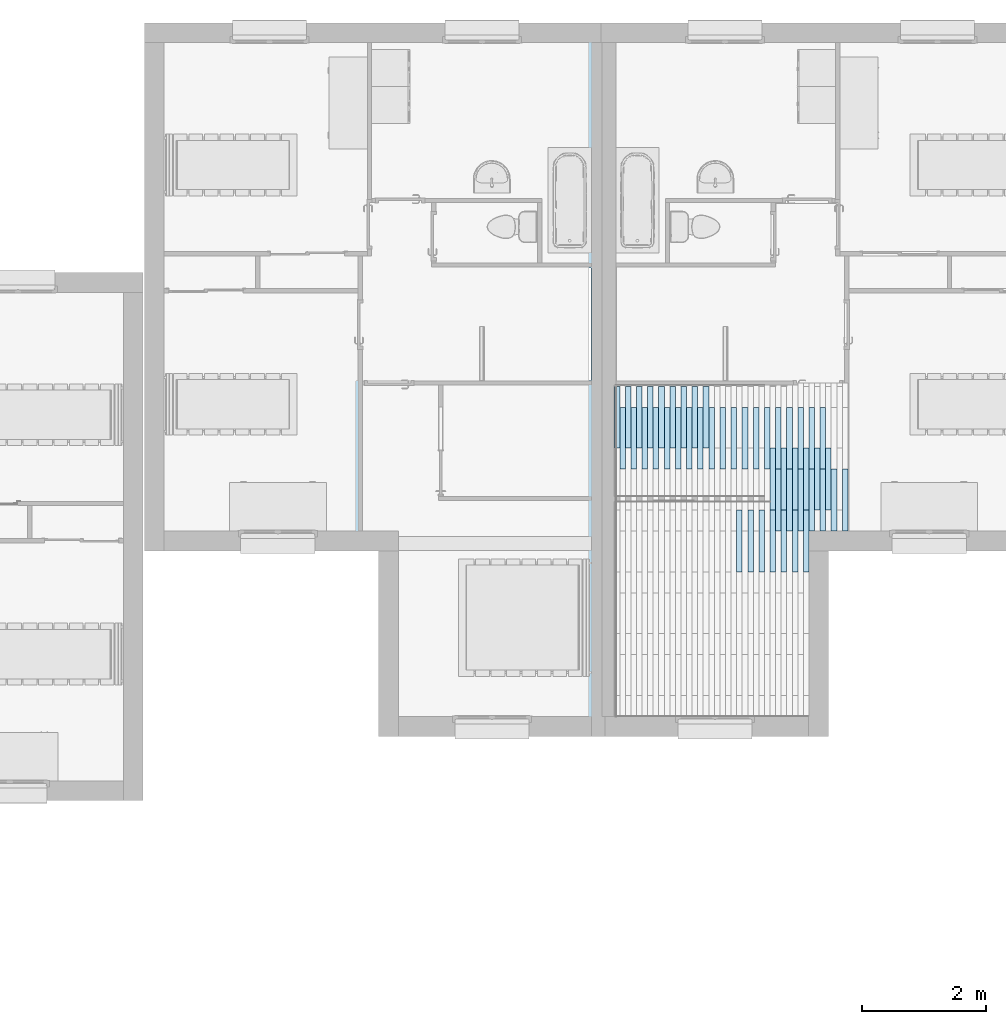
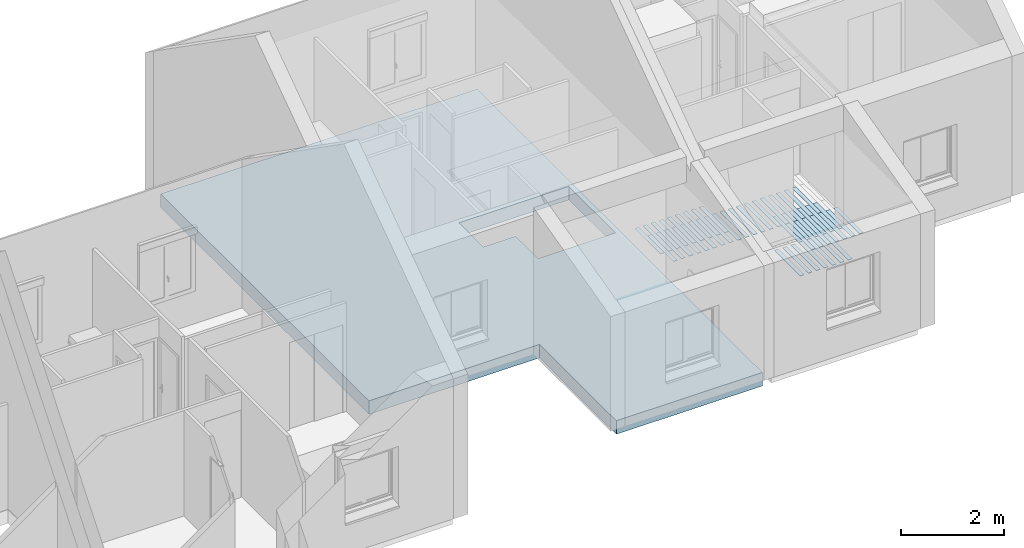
# One storey, part 3 of 50: 49 slabs, 1 opening.
"""IFC2X3 building model written with IfcOpenShell, lengths in metres."""

from ifc_helpers import new_model, entity, si_unit, converted_unit, derived_unit, direction, frame, frame_2d, origin, place, context, subcontext, project, spatial, polyline, rectangle, outline, extrude, material, layer, layer_set, layer_usage, element, save


model = new_model("IFC2X3")

# Units and contexts
model_context = context("Model", 3, precision=1e-05, world=origin(), true_north=direction((6.12303176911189e-17, 1.0)))
context_of_model = context(None, 3, precision=1e-05, world=origin(), true_north=direction((6.12303176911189e-17, 1.0)))
body_context = subcontext(model_context, "Body", "Model", "MODEL_VIEW")
ifc_project = project(units=[si_unit("LENGTHUNIT", "METRE"), si_unit("AREAUNIT", "SQUARE_METRE"), si_unit("VOLUMEUNIT", "CUBIC_METRE"), converted_unit("PLANEANGLEUNIT", "DEGREE", entity("IfcRatioMeasure", 0.0174532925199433), si_unit("PLANEANGLEUNIT", "RADIAN"), dimensions=[0, 0, 0, 0, 0, 0, 0]), si_unit("MASSUNIT", "GRAM", prefix="KILO"), si_unit("TIMEUNIT", "SECOND"), si_unit("FREQUENCYUNIT", "HERTZ"), si_unit("THERMODYNAMICTEMPERATUREUNIT", "DEGREE_CELSIUS"), derived_unit("THERMALTRANSMITTANCEUNIT", [(si_unit("MASSUNIT", "GRAM", prefix="KILO"), 1), (si_unit("THERMODYNAMICTEMPERATUREUNIT", "KELVIN"), -1), (si_unit("TIMEUNIT", "SECOND"), -3)]), derived_unit("VOLUMETRICFLOWRATEUNIT", [(si_unit("LENGTHUNIT", "METRE"), 3), (si_unit("TIMEUNIT", "SECOND"), -1)]), si_unit("ELECTRICCURRENTUNIT", "AMPERE"), si_unit("ELECTRICVOLTAGEUNIT", "VOLT"), si_unit("POWERUNIT", "WATT"), si_unit("FORCEUNIT", "NEWTON", prefix="KILO"), si_unit("ILLUMINANCEUNIT", "LUX"), si_unit("LUMINOUSFLUXUNIT", "LUMEN"), si_unit("LUMINOUSINTENSITYUNIT", "CANDELA"), si_unit("PRESSUREUNIT", "PASCAL")], contexts=[model_context, context_of_model])

# Site, building, storey
site_placement = place(None, origin())
site = spatial("IfcSite", under=ifc_project, at=site_placement, Name="Surface", CompositionType="ELEMENT")
building_placement = place(site_placement, origin())
building = spatial("IfcBuilding", under=site, at=building_placement, CompositionType="ELEMENT")
storey_placement = place(building_placement, frame((0.0, 0.0, 2.82)))
storey = spatial("IfcBuildingStorey", under=building, at=storey_placement, Name="ETAGE", CompositionType="ELEMENT", Elevation=2.82)

# Slab, opening
ifc_material_1 = material(Name="Béton")
ifc_layer_1 = layer(ifc_material_1, 0.2)
ifc_material_2 = material(Name="Isolant")
ifc_layer_2 = layer(ifc_material_2, 0.1)
ifc_material_3 = material(Name="Plastique - Blanc")
ifc_layer_3 = layer(ifc_material_3, 0.02)
ifc_layer_set_1 = layer_set([ifc_layer_1, ifc_layer_2, ifc_layer_3], Name="Sol:Dalle Béton - 20 cm  + FAUX PLAFOND")
ifc_layer_usage_1 = layer_usage(ifc_layer_set_1, "AXIS3", "POSITIVE", 0.0)
slab_1_placement = place(storey_placement, frame((76.5227560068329, 81.1575239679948, -0.3)))
slab_1 = element("IfcSlab", 1, at=slab_1_placement, inside=storey, material=ifc_layer_usage_1, Name="Sol:Dalle Béton - 20 cm  + FAUX PLAFOND", ObjectType="Sol:Dalle Béton - 20 cm  + FAUX PLAFOND", PredefinedType="FLOOR", context=body_context, shape_type="SweptSolid", body=[
    extrude(outline(polyline([(3.55413147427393, 5.545), (-3.55413147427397, 5.545), (-3.55413147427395, -2.55499999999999), (0.274131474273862, -2.55499999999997), (0.274131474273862, -5.54499999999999), (3.55413147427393, -5.545), (3.55413147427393, 5.545)])), frame((3.55413147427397, 5.545, 0.32)), (0.0, 0.0, -1.0), 0.32),
])
opening_placement = place(storey_placement, frame((76.5227560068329, 81.1575239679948, -0.3)))
element("IfcOpeningElement", 2, at=opening_placement, cuts=slab_1, ObjectType="Opening", context=body_context, shape_type="SweptSolid", body=[
    extrude(outline(polyline([(-3.44496571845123, 1.7966805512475), (-3.44496571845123, -0.0199999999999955), (-1.70746571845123, -0.0199999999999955), (-1.70746571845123, 0.852480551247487), (-0.977465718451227, 0.852480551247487), (-0.977465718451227, 1.7966805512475), (-3.44496571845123, 1.7966805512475)])), frame((3.55413147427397, 5.545, 0.32), z_axis=(0.0, 0.0, -1.0), x_axis=(-1.0, 0.0, 0.0)), (0.0, 0.0, 1.0), 0.32),
])

# Slabs
ifc_material_4 = material(Name="PARQUET BAMBOU")
ifc_layer_4 = layer(ifc_material_4, 0.01)
ifc_layer_set_2 = layer_set([ifc_layer_4], Name="Sol:LAME DE BAMBOU")
ifc_layer_usage_2 = layer_usage(ifc_layer_set_2, "AXIS3", "POSITIVE", 0.0)
slab_2_placement = place(storey_placement, origin())
element("IfcSlab", 3, at=slab_2_placement, inside=storey, material=ifc_layer_usage_2, Name="Sol:LAME DE BAMBOU", ObjectType="Sol:LAME DE BAMBOU", PredefinedType="FLOOR", context=body_context, shape_type="SweptSolid", body=[
    extrude(rectangle(XDim=0.999999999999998, YDim=0.0899999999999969, at=frame_2d((8.68749516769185e-15, 8.66320903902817e-15), x_axis=(1.0, 0.0))), frame((85.926089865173, 84.0875239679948, 0.05), z_axis=(0.0, 0.0, -1.0), x_axis=(0.0, 1.0, 0.0)), (0.0, 0.0, 1.0), 0.00999999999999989),
])
ifc_layer_usage_3 = layer_usage(ifc_layer_set_2, "AXIS3", "POSITIVE", 0.0)
slab_3_placement = place(storey_placement, origin())
element("IfcSlab", 4, at=slab_3_placement, inside=storey, material=ifc_layer_usage_3, Name="Sol:LAME DE BAMBOU", ObjectType="Sol:LAME DE BAMBOU", PredefinedType="FLOOR", context=body_context, shape_type="SweptSolid", body=[
    extrude(rectangle(XDim=0.999999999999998, YDim=0.0899999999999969, at=frame_2d((8.68749516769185e-15, 8.66320903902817e-15), x_axis=(1.0, 0.0))), frame((86.106089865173, 84.0875239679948, 0.05), z_axis=(0.0, 0.0, -1.0), x_axis=(0.0, 1.0, 0.0)), (0.0, 0.0, 1.0), 0.00999999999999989),
])
ifc_layer_usage_4 = layer_usage(ifc_layer_set_2, "AXIS3", "POSITIVE", 0.0)
slab_4_placement = place(storey_placement, origin())
element("IfcSlab", 5, at=slab_4_placement, inside=storey, material=ifc_layer_usage_4, Name="Sol:LAME DE BAMBOU", ObjectType="Sol:LAME DE BAMBOU", PredefinedType="FLOOR", context=body_context, shape_type="SweptSolid", body=[
    extrude(rectangle(XDim=0.999999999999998, YDim=0.0899999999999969, at=frame_2d((8.68749516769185e-15, 8.66320903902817e-15), x_axis=(1.0, 0.0))), frame((86.286089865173, 84.0875239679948, 0.05), z_axis=(0.0, 0.0, -1.0), x_axis=(0.0, 1.0, 0.0)), (0.0, 0.0, 1.0), 0.00999999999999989),
])
ifc_layer_usage_5 = layer_usage(ifc_layer_set_2, "AXIS3", "POSITIVE", 0.0)
slab_5_placement = place(storey_placement, origin())
element("IfcSlab", 6, at=slab_5_placement, inside=storey, material=ifc_layer_usage_5, Name="Sol:LAME DE BAMBOU", ObjectType="Sol:LAME DE BAMBOU", PredefinedType="FLOOR", context=body_context, shape_type="SweptSolid", body=[
    extrude(rectangle(XDim=0.999999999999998, YDim=0.0899999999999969, at=frame_2d((8.68749516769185e-15, 8.66320903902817e-15), x_axis=(1.0, 0.0))), frame((86.466089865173, 84.0875239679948, 0.05), z_axis=(0.0, 0.0, -1.0), x_axis=(0.0, 1.0, 0.0)), (0.0, 0.0, 1.0), 0.00999999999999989),
])
ifc_layer_usage_6 = layer_usage(ifc_layer_set_2, "AXIS3", "POSITIVE", 0.0)
slab_6_placement = place(storey_placement, origin())
element("IfcSlab", 7, at=slab_6_placement, inside=storey, material=ifc_layer_usage_6, Name="Sol:LAME DE BAMBOU", ObjectType="Sol:LAME DE BAMBOU", PredefinedType="FLOOR", context=body_context, shape_type="SweptSolid", body=[
    extrude(rectangle(XDim=0.999999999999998, YDim=0.0899999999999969, at=frame_2d((8.68749516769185e-15, 8.66320903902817e-15), x_axis=(1.0, 0.0))), frame((86.646089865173, 84.0875239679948, 0.05), z_axis=(0.0, 0.0, -1.0), x_axis=(0.0, 1.0, 0.0)), (0.0, 0.0, 1.0), 0.00999999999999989),
])
ifc_layer_usage_7 = layer_usage(ifc_layer_set_2, "AXIS3", "POSITIVE", 0.0)
slab_7_placement = place(storey_placement, origin())
element("IfcSlab", 8, at=slab_7_placement, inside=storey, material=ifc_layer_usage_7, Name="Sol:LAME DE BAMBOU", ObjectType="Sol:LAME DE BAMBOU", PredefinedType="FLOOR", context=body_context, shape_type="SweptSolid", body=[
    extrude(rectangle(XDim=0.999999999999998, YDim=0.0899999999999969, at=frame_2d((8.68749516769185e-15, 8.66320903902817e-15), x_axis=(1.0, 0.0))), frame((86.826089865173, 84.0875239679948, 0.05), z_axis=(0.0, 0.0, -1.0), x_axis=(0.0, 1.0, 0.0)), (0.0, 0.0, 1.0), 0.00999999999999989),
])
ifc_layer_usage_8 = layer_usage(ifc_layer_set_2, "AXIS3", "POSITIVE", 0.0)
slab_8_placement = place(storey_placement, origin())
element("IfcSlab", 9, at=slab_8_placement, inside=storey, material=ifc_layer_usage_8, Name="Sol:LAME DE BAMBOU", ObjectType="Sol:LAME DE BAMBOU", PredefinedType="FLOOR", context=body_context, shape_type="SweptSolid", body=[
    extrude(rectangle(XDim=0.999999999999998, YDim=0.0899999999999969, at=frame_2d((-8.68749516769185e-15, 8.66320903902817e-15), x_axis=(1.0, 0.0))), frame((86.466089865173, 85.0875239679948, 0.05), z_axis=(0.0, 0.0, -1.0), x_axis=(0.0, 1.0, 0.0)), (0.0, 0.0, 1.0), 0.00999999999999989),
])
ifc_layer_usage_9 = layer_usage(ifc_layer_set_2, "AXIS3", "POSITIVE", 0.0)
slab_9_placement = place(storey_placement, origin())
element("IfcSlab", 10, at=slab_9_placement, inside=storey, material=ifc_layer_usage_9, Name="Sol:LAME DE BAMBOU", ObjectType="Sol:LAME DE BAMBOU", PredefinedType="FLOOR", context=body_context, shape_type="SweptSolid", body=[
    extrude(rectangle(XDim=0.999999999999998, YDim=0.0899999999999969, at=frame_2d((-8.68749516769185e-15, 8.66320903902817e-15), x_axis=(1.0, 0.0))), frame((86.556089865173, 84.7475239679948, 0.05), z_axis=(0.0, 0.0, -1.0), x_axis=(0.0, 1.0, 0.0)), (0.0, 0.0, 1.0), 0.00999999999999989),
])
ifc_layer_usage_10 = layer_usage(ifc_layer_set_2, "AXIS3", "POSITIVE", 0.0)
slab_10_placement = place(storey_placement, origin())
element("IfcSlab", 11, at=slab_10_placement, inside=storey, material=ifc_layer_usage_10, Name="Sol:LAME DE BAMBOU", ObjectType="Sol:LAME DE BAMBOU", PredefinedType="FLOOR", context=body_context, shape_type="SweptSolid", body=[
    extrude(rectangle(XDim=0.999999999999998, YDim=0.0899999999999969, at=frame_2d((8.68749516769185e-15, 8.66320903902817e-15), x_axis=(1.0, 0.0))), frame((86.556089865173, 85.7475239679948, 0.05), z_axis=(0.0, 0.0, -1.0), x_axis=(0.0, 1.0, 0.0)), (0.0, 0.0, 1.0), 0.00999999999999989),
])
ifc_layer_usage_11 = layer_usage(ifc_layer_set_2, "AXIS3", "POSITIVE", 0.0)
slab_11_placement = place(storey_placement, origin())
element("IfcSlab", 12, at=slab_11_placement, inside=storey, material=ifc_layer_usage_11, Name="Sol:LAME DE BAMBOU", ObjectType="Sol:LAME DE BAMBOU", PredefinedType="FLOOR", context=body_context, shape_type="SweptSolid", body=[
    extrude(rectangle(XDim=0.999999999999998, YDim=0.0899999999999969, at=frame_2d((-8.68749516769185e-15, 8.66320903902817e-15), x_axis=(1.0, 0.0))), frame((86.916089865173, 84.7475239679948, 0.05), z_axis=(0.0, 0.0, -1.0), x_axis=(0.0, 1.0, 0.0)), (0.0, 0.0, 1.0), 0.00999999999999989),
])
ifc_layer_usage_12 = layer_usage(ifc_layer_set_2, "AXIS3", "POSITIVE", 0.0)
slab_12_placement = place(storey_placement, origin())
element("IfcSlab", 13, at=slab_12_placement, inside=storey, material=ifc_layer_usage_12, Name="Sol:LAME DE BAMBOU", ObjectType="Sol:LAME DE BAMBOU", PredefinedType="FLOOR", context=body_context, shape_type="SweptSolid", body=[
    extrude(rectangle(XDim=0.999999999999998, YDim=0.0899999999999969, at=frame_2d((8.68749516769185e-15, 8.66320903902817e-15), x_axis=(1.0, 0.0))), frame((86.916089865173, 85.7475239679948, 0.05), z_axis=(0.0, 0.0, -1.0), x_axis=(0.0, 1.0, 0.0)), (0.0, 0.0, 1.0), 0.00999999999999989),
])
ifc_layer_usage_13 = layer_usage(ifc_layer_set_2, "AXIS3", "POSITIVE", 0.0)
slab_13_placement = place(storey_placement, origin())
element("IfcSlab", 14, at=slab_13_placement, inside=storey, material=ifc_layer_usage_13, Name="Sol:LAME DE BAMBOU", ObjectType="Sol:LAME DE BAMBOU", PredefinedType="FLOOR", context=body_context, shape_type="SweptSolid", body=[
    extrude(rectangle(XDim=0.999999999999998, YDim=0.0899999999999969, at=frame_2d((-8.68749516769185e-15, -8.66320903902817e-15), x_axis=(1.0, 0.0))), frame((86.736089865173, 84.7475239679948, 0.05), z_axis=(0.0, 0.0, -1.0), x_axis=(0.0, 1.0, 0.0)), (0.0, 0.0, 1.0), 0.00999999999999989),
])
ifc_layer_usage_14 = layer_usage(ifc_layer_set_2, "AXIS3", "POSITIVE", 0.0)
slab_14_placement = place(storey_placement, origin())
element("IfcSlab", 15, at=slab_14_placement, inside=storey, material=ifc_layer_usage_14, Name="Sol:LAME DE BAMBOU", ObjectType="Sol:LAME DE BAMBOU", PredefinedType="FLOOR", context=body_context, shape_type="SweptSolid", body=[
    extrude(rectangle(XDim=0.999999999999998, YDim=0.0899999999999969, at=frame_2d((8.68749516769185e-15, -8.66320903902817e-15), x_axis=(1.0, 0.0))), frame((86.736089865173, 85.7475239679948, 0.05), z_axis=(0.0, 0.0, -1.0), x_axis=(0.0, 1.0, 0.0)), (0.0, 0.0, 1.0), 0.00999999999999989),
])
ifc_layer_usage_15 = layer_usage(ifc_layer_set_2, "AXIS3", "POSITIVE", 0.0)
slab_15_placement = place(storey_placement, origin())
element("IfcSlab", 16, at=slab_15_placement, inside=storey, material=ifc_layer_usage_15, Name="Sol:LAME DE BAMBOU", ObjectType="Sol:LAME DE BAMBOU", PredefinedType="FLOOR", context=body_context, shape_type="SweptSolid", body=[
    extrude(rectangle(XDim=0.999999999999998, YDim=0.0899999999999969, at=frame_2d((-8.68749516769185e-15, 8.66320903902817e-15), x_axis=(1.0, 0.0))), frame((86.646089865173, 85.0875239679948, 0.05), z_axis=(0.0, 0.0, -1.0), x_axis=(0.0, 1.0, 0.0)), (0.0, 0.0, 1.0), 0.00999999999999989),
])
ifc_layer_usage_16 = layer_usage(ifc_layer_set_2, "AXIS3", "POSITIVE", 0.0)
slab_16_placement = place(storey_placement, origin())
element("IfcSlab", 17, at=slab_16_placement, inside=storey, material=ifc_layer_usage_16, Name="Sol:LAME DE BAMBOU", ObjectType="Sol:LAME DE BAMBOU", PredefinedType="FLOOR", context=body_context, shape_type="SweptSolid", body=[
    extrude(rectangle(XDim=0.999999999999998, YDim=0.0899999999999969, at=frame_2d((-8.68749516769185e-15, 8.66320903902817e-15), x_axis=(1.0, 0.0))), frame((86.826089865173, 85.0875239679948, 0.05), z_axis=(0.0, 0.0, -1.0), x_axis=(0.0, 1.0, 0.0)), (0.0, 0.0, 1.0), 0.00999999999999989),
])
ifc_layer_usage_17 = layer_usage(ifc_layer_set_2, "AXIS3", "POSITIVE", 0.0)
slab_17_placement = place(storey_placement, origin())
element("IfcSlab", 18, at=slab_17_placement, inside=storey, material=ifc_layer_usage_17, Name="Sol:LAME DE BAMBOU", ObjectType="Sol:LAME DE BAMBOU", PredefinedType="FLOOR", context=body_context, shape_type="SweptSolid", body=[
    extrude(rectangle(XDim=0.999999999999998, YDim=0.0899999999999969, at=frame_2d((8.68749516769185e-15, 8.66320903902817e-15), x_axis=(1.0, 0.0))), frame((87.006089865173, 84.0875239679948, 0.05), z_axis=(0.0, 0.0, -1.0), x_axis=(0.0, 1.0, 0.0)), (0.0, 0.0, 1.0), 0.00999999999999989),
])
ifc_layer_usage_18 = layer_usage(ifc_layer_set_2, "AXIS3", "POSITIVE", 0.0)
slab_18_placement = place(storey_placement, origin())
element("IfcSlab", 19, at=slab_18_placement, inside=storey, material=ifc_layer_usage_18, Name="Sol:LAME DE BAMBOU", ObjectType="Sol:LAME DE BAMBOU", PredefinedType="FLOOR", context=body_context, shape_type="SweptSolid", body=[
    extrude(rectangle(XDim=0.999999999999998, YDim=0.0899999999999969, at=frame_2d((-8.68749516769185e-15, 8.66320903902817e-15), x_axis=(1.0, 0.0))), frame((87.006089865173, 85.0875239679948, 0.05), z_axis=(0.0, 0.0, -1.0), x_axis=(0.0, 1.0, 0.0)), (0.0, 0.0, 1.0), 0.00999999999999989),
])
ifc_layer_usage_19 = layer_usage(ifc_layer_set_2, "AXIS3", "POSITIVE", 0.0)
slab_19_placement = place(storey_placement, origin())
element("IfcSlab", 20, at=slab_19_placement, inside=storey, material=ifc_layer_usage_19, Name="Sol:LAME DE BAMBOU", ObjectType="Sol:LAME DE BAMBOU", PredefinedType="FLOOR", context=body_context, shape_type="SweptSolid", body=[
    extrude(rectangle(XDim=0.999999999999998, YDim=0.0899999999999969, at=frame_2d((-8.68749516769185e-15, 8.66320903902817e-15), x_axis=(1.0, 0.0))), frame((87.0961607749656, 84.7475239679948, 0.05), z_axis=(0.0, 0.0, -1.0), x_axis=(0.0, 1.0, 0.0)), (0.0, 0.0, 1.0), 0.00999999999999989),
])
ifc_layer_usage_20 = layer_usage(ifc_layer_set_2, "AXIS3", "POSITIVE", 0.0)
slab_20_placement = place(storey_placement, origin())
element("IfcSlab", 21, at=slab_20_placement, inside=storey, material=ifc_layer_usage_20, Name="Sol:LAME DE BAMBOU", ObjectType="Sol:LAME DE BAMBOU", PredefinedType="FLOOR", context=body_context, shape_type="SweptSolid", body=[
    extrude(rectangle(XDim=0.999999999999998, YDim=0.0899999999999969, at=frame_2d((8.68749516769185e-15, 8.66320903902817e-15), x_axis=(1.0, 0.0))), frame((87.0961607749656, 85.7475239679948, 0.05), z_axis=(0.0, 0.0, -1.0), x_axis=(0.0, 1.0, 0.0)), (0.0, 0.0, 1.0), 0.00999999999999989),
])
ifc_layer_usage_21 = layer_usage(ifc_layer_set_2, "AXIS3", "POSITIVE", 0.0)
slab_21_placement = place(storey_placement, origin())
element("IfcSlab", 22, at=slab_21_placement, inside=storey, material=ifc_layer_usage_21, Name="Sol:LAME DE BAMBOU", ObjectType="Sol:LAME DE BAMBOU", PredefinedType="FLOOR", context=body_context, shape_type="SweptSolid", body=[
    extrude(rectangle(XDim=0.999999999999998, YDim=0.0899999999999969, at=frame_2d((-8.68749516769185e-15, 8.66320903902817e-15), x_axis=(1.0, 0.0))), frame((87.1861607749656, 85.0875239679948, 0.05), z_axis=(0.0, 0.0, -1.0), x_axis=(0.0, 1.0, 0.0)), (0.0, 0.0, 1.0), 0.00999999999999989),
])
ifc_layer_usage_22 = layer_usage(ifc_layer_set_2, "AXIS3", "POSITIVE", 0.0)
slab_22_placement = place(storey_placement, origin())
element("IfcSlab", 23, at=slab_22_placement, inside=storey, material=ifc_layer_usage_22, Name="Sol:LAME DE BAMBOU", ObjectType="Sol:LAME DE BAMBOU", PredefinedType="FLOOR", context=body_context, shape_type="SweptSolid", body=[
    extrude(rectangle(XDim=0.999999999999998, YDim=0.0899999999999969, at=frame_2d((-8.68749516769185e-15, 8.66320903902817e-15), x_axis=(1.0, 0.0))), frame((87.2761607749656, 84.7475239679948, 0.05), z_axis=(0.0, 0.0, -1.0), x_axis=(0.0, 1.0, 0.0)), (0.0, 0.0, 1.0), 0.00999999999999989),
])
ifc_layer_usage_23 = layer_usage(ifc_layer_set_2, "AXIS3", "POSITIVE", 0.0)
slab_23_placement = place(storey_placement, origin())
element("IfcSlab", 24, at=slab_23_placement, inside=storey, material=ifc_layer_usage_23, Name="Sol:LAME DE BAMBOU", ObjectType="Sol:LAME DE BAMBOU", PredefinedType="FLOOR", context=body_context, shape_type="SweptSolid", body=[
    extrude(rectangle(XDim=0.999999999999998, YDim=0.0899999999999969, at=frame_2d((8.68749516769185e-15, 8.66320903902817e-15), x_axis=(1.0, 0.0))), frame((87.2761607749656, 85.7475239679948, 0.05), z_axis=(0.0, 0.0, -1.0), x_axis=(0.0, 1.0, 0.0)), (0.0, 0.0, 1.0), 0.00999999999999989),
])
ifc_layer_usage_24 = layer_usage(ifc_layer_set_2, "AXIS3", "POSITIVE", 0.0)
slab_24_placement = place(storey_placement, origin())
element("IfcSlab", 25, at=slab_24_placement, inside=storey, material=ifc_layer_usage_24, Name="Sol:LAME DE BAMBOU", ObjectType="Sol:LAME DE BAMBOU", PredefinedType="FLOOR", context=body_context, shape_type="SweptSolid", body=[
    extrude(rectangle(XDim=0.999999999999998, YDim=0.0899999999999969, at=frame_2d((-8.68749516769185e-15, -8.66320903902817e-15), x_axis=(1.0, 0.0))), frame((87.3661607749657, 85.0875239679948, 0.05), z_axis=(0.0, 0.0, -1.0), x_axis=(0.0, 1.0, 0.0)), (0.0, 0.0, 1.0), 0.00999999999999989),
])
ifc_layer_usage_25 = layer_usage(ifc_layer_set_2, "AXIS3", "POSITIVE", 0.0)
slab_25_placement = place(storey_placement, origin())
element("IfcSlab", 26, at=slab_25_placement, inside=storey, material=ifc_layer_usage_25, Name="Sol:LAME DE BAMBOU", ObjectType="Sol:LAME DE BAMBOU", PredefinedType="FLOOR", context=body_context, shape_type="SweptSolid", body=[
    extrude(rectangle(XDim=0.999999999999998, YDim=0.0899999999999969, at=frame_2d((-8.68749516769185e-15, 8.66320903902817e-15), x_axis=(1.0, 0.0))), frame((87.4561607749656, 84.7475239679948, 0.05), z_axis=(0.0, 0.0, -1.0), x_axis=(0.0, 1.0, 0.0)), (0.0, 0.0, 1.0), 0.00999999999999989),
])
ifc_layer_usage_26 = layer_usage(ifc_layer_set_2, "AXIS3", "POSITIVE", 0.0)
slab_26_placement = place(storey_placement, origin())
element("IfcSlab", 27, at=slab_26_placement, inside=storey, material=ifc_layer_usage_26, Name="Sol:LAME DE BAMBOU", ObjectType="Sol:LAME DE BAMBOU", PredefinedType="FLOOR", context=body_context, shape_type="SweptSolid", body=[
    extrude(rectangle(XDim=0.999999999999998, YDim=0.0899999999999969, at=frame_2d((-8.68749516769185e-15, 8.66320903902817e-15), x_axis=(1.0, 0.0))), frame((87.6361607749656, 84.7475239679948, 0.05), z_axis=(0.0, 0.0, -1.0), x_axis=(0.0, 1.0, 0.0)), (0.0, 0.0, 1.0), 0.00999999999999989),
])
ifc_layer_usage_27 = layer_usage(ifc_layer_set_2, "AXIS3", "POSITIVE", 0.0)
slab_27_placement = place(storey_placement, origin())
element("IfcSlab", 28, at=slab_27_placement, inside=storey, material=ifc_layer_usage_27, Name="Sol:LAME DE BAMBOU", ObjectType="Sol:LAME DE BAMBOU", PredefinedType="FLOOR", context=body_context, shape_type="SweptSolid", body=[
    extrude(rectangle(XDim=0.999999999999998, YDim=0.0899999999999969, at=frame_2d((8.68749516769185e-15, -8.66320903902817e-15), x_axis=(1.0, 0.0))), frame((86.376089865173, 85.7475239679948, 0.05), z_axis=(0.0, 0.0, -1.0), x_axis=(0.0, 1.0, 0.0)), (0.0, 0.0, 1.0), 0.00999999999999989),
])
ifc_layer_usage_28 = layer_usage(ifc_layer_set_2, "AXIS3", "POSITIVE", 0.0)
slab_28_placement = place(storey_placement, origin())
element("IfcSlab", 29, at=slab_28_placement, inside=storey, material=ifc_layer_usage_28, Name="Sol:LAME DE BAMBOU", ObjectType="Sol:LAME DE BAMBOU", PredefinedType="FLOOR", context=body_context, shape_type="SweptSolid", body=[
    extrude(rectangle(XDim=0.999999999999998, YDim=0.0899999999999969, at=frame_2d((8.68749516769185e-15, 8.66320903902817e-15), x_axis=(1.0, 0.0))), frame((86.1960898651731, 85.7475239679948, 0.05), z_axis=(0.0, 0.0, -1.0), x_axis=(0.0, 1.0, 0.0)), (0.0, 0.0, 1.0), 0.00999999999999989),
])
ifc_layer_usage_29 = layer_usage(ifc_layer_set_2, "AXIS3", "POSITIVE", 0.0)
slab_29_placement = place(storey_placement, origin())
element("IfcSlab", 30, at=slab_29_placement, inside=storey, material=ifc_layer_usage_29, Name="Sol:LAME DE BAMBOU", ObjectType="Sol:LAME DE BAMBOU", PredefinedType="FLOOR", context=body_context, shape_type="SweptSolid", body=[
    extrude(rectangle(XDim=0.999999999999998, YDim=0.0899999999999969, at=frame_2d((8.68749516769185e-15, 8.66320903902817e-15), x_axis=(1.0, 0.0))), frame((86.0160898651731, 85.7475239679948, 0.05), z_axis=(0.0, 0.0, -1.0), x_axis=(0.0, 1.0, 0.0)), (0.0, 0.0, 1.0), 0.00999999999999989),
])
ifc_layer_usage_30 = layer_usage(ifc_layer_set_2, "AXIS3", "POSITIVE", 0.0)
slab_30_placement = place(storey_placement, origin())
element("IfcSlab", 31, at=slab_30_placement, inside=storey, material=ifc_layer_usage_30, Name="Sol:LAME DE BAMBOU", ObjectType="Sol:LAME DE BAMBOU", PredefinedType="FLOOR", context=body_context, shape_type="SweptSolid", body=[
    extrude(rectangle(XDim=0.999999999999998, YDim=0.0899999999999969, at=frame_2d((8.68749516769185e-15, 8.66320903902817e-15), x_axis=(1.0, 0.0))), frame((85.8360898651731, 85.7475239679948, 0.05), z_axis=(0.0, 0.0, -1.0), x_axis=(0.0, 1.0, 0.0)), (0.0, 0.0, 1.0), 0.00999999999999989),
])
ifc_layer_usage_31 = layer_usage(ifc_layer_set_2, "AXIS3", "POSITIVE", 0.0)
slab_31_placement = place(storey_placement, origin())
element("IfcSlab", 32, at=slab_31_placement, inside=storey, material=ifc_layer_usage_31, Name="Sol:LAME DE BAMBOU", ObjectType="Sol:LAME DE BAMBOU", PredefinedType="FLOOR", context=body_context, shape_type="SweptSolid", body=[
    extrude(rectangle(XDim=0.999999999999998, YDim=0.0899999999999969, at=frame_2d((8.68749516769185e-15, 8.66320903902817e-15), x_axis=(1.0, 0.0))), frame((85.6560898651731, 85.7475239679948, 0.05), z_axis=(0.0, 0.0, -1.0), x_axis=(0.0, 1.0, 0.0)), (0.0, 0.0, 1.0), 0.00999999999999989),
])
ifc_layer_usage_32 = layer_usage(ifc_layer_set_2, "AXIS3", "POSITIVE", 0.0)
slab_32_placement = place(storey_placement, origin())
element("IfcSlab", 33, at=slab_32_placement, inside=storey, material=ifc_layer_usage_32, Name="Sol:LAME DE BAMBOU", ObjectType="Sol:LAME DE BAMBOU", PredefinedType="FLOOR", context=body_context, shape_type="SweptSolid", body=[
    extrude(rectangle(XDim=0.999999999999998, YDim=0.0899999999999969, at=frame_2d((8.68749516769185e-15, 8.66320903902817e-15), x_axis=(1.0, 0.0))), frame((85.4760898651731, 85.7475239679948, 0.05), z_axis=(0.0, 0.0, -1.0), x_axis=(0.0, 1.0, 0.0)), (0.0, 0.0, 1.0), 0.00999999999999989),
])
ifc_layer_usage_33 = layer_usage(ifc_layer_set_2, "AXIS3", "POSITIVE", 0.0)
slab_33_placement = place(storey_placement, origin())
element("IfcSlab", 34, at=slab_33_placement, inside=storey, material=ifc_layer_usage_33, Name="Sol:LAME DE BAMBOU", ObjectType="Sol:LAME DE BAMBOU", PredefinedType="FLOOR", context=body_context, shape_type="SweptSolid", body=[
    extrude(rectangle(XDim=0.999999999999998, YDim=0.0899999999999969, at=frame_2d((8.68749516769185e-15, 8.66320903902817e-15), x_axis=(1.0, 0.0))), frame((85.386089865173, 86.0875239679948, 0.05), z_axis=(0.0, 0.0, -1.0), x_axis=(0.0, 1.0, 0.0)), (0.0, 0.0, 1.0), 0.00999999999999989),
])
ifc_layer_usage_34 = layer_usage(ifc_layer_set_2, "AXIS3", "POSITIVE", 0.0)
slab_34_placement = place(storey_placement, origin())
element("IfcSlab", 35, at=slab_34_placement, inside=storey, material=ifc_layer_usage_34, Name="Sol:LAME DE BAMBOU", ObjectType="Sol:LAME DE BAMBOU", PredefinedType="FLOOR", context=body_context, shape_type="SweptSolid", body=[
    extrude(rectangle(XDim=0.999999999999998, YDim=0.0899999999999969, at=frame_2d((8.68749516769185e-15, 8.66320903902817e-15), x_axis=(1.0, 0.0))), frame((85.2960898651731, 85.7475239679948, 0.05), z_axis=(0.0, 0.0, -1.0), x_axis=(0.0, 1.0, 0.0)), (0.0, 0.0, 1.0), 0.00999999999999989),
])
ifc_layer_usage_35 = layer_usage(ifc_layer_set_2, "AXIS3", "POSITIVE", 0.0)
slab_35_placement = place(storey_placement, origin())
element("IfcSlab", 36, at=slab_35_placement, inside=storey, material=ifc_layer_usage_35, Name="Sol:LAME DE BAMBOU", ObjectType="Sol:LAME DE BAMBOU", PredefinedType="FLOOR", context=body_context, shape_type="SweptSolid", body=[
    extrude(rectangle(XDim=0.999999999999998, YDim=0.0899999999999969, at=frame_2d((8.68749516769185e-15, 8.66320903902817e-15), x_axis=(1.0, 0.0))), frame((85.206089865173, 86.0875239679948, 0.05), z_axis=(0.0, 0.0, -1.0), x_axis=(0.0, 1.0, 0.0)), (0.0, 0.0, 1.0), 0.00999999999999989),
])
ifc_layer_usage_36 = layer_usage(ifc_layer_set_2, "AXIS3", "POSITIVE", 0.0)
slab_36_placement = place(storey_placement, origin())
element("IfcSlab", 37, at=slab_36_placement, inside=storey, material=ifc_layer_usage_36, Name="Sol:LAME DE BAMBOU", ObjectType="Sol:LAME DE BAMBOU", PredefinedType="FLOOR", context=body_context, shape_type="SweptSolid", body=[
    extrude(rectangle(XDim=0.999999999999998, YDim=0.0899999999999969, at=frame_2d((8.68749516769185e-15, 8.66320903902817e-15), x_axis=(1.0, 0.0))), frame((85.1160898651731, 85.7475239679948, 0.05), z_axis=(0.0, 0.0, -1.0), x_axis=(0.0, 1.0, 0.0)), (0.0, 0.0, 1.0), 0.00999999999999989),
])
ifc_layer_usage_37 = layer_usage(ifc_layer_set_2, "AXIS3", "POSITIVE", 0.0)
slab_37_placement = place(storey_placement, origin())
element("IfcSlab", 38, at=slab_37_placement, inside=storey, material=ifc_layer_usage_37, Name="Sol:LAME DE BAMBOU", ObjectType="Sol:LAME DE BAMBOU", PredefinedType="FLOOR", context=body_context, shape_type="SweptSolid", body=[
    extrude(rectangle(XDim=0.999999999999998, YDim=0.0899999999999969, at=frame_2d((8.68749516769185e-15, 8.66320903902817e-15), x_axis=(1.0, 0.0))), frame((85.0260898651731, 86.0875239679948, 0.05), z_axis=(0.0, 0.0, -1.0), x_axis=(0.0, 1.0, 0.0)), (0.0, 0.0, 1.0), 0.00999999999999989),
])
ifc_layer_usage_38 = layer_usage(ifc_layer_set_2, "AXIS3", "POSITIVE", 0.0)
slab_38_placement = place(storey_placement, origin())
element("IfcSlab", 39, at=slab_38_placement, inside=storey, material=ifc_layer_usage_38, Name="Sol:LAME DE BAMBOU", ObjectType="Sol:LAME DE BAMBOU", PredefinedType="FLOOR", context=body_context, shape_type="SweptSolid", body=[
    extrude(rectangle(XDim=0.999999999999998, YDim=0.0899999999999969, at=frame_2d((8.68749516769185e-15, 8.66320903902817e-15), x_axis=(1.0, 0.0))), frame((84.9360898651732, 85.7475239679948, 0.05), z_axis=(0.0, 0.0, -1.0), x_axis=(0.0, 1.0, 0.0)), (0.0, 0.0, 1.0), 0.00999999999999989),
])
ifc_layer_usage_39 = layer_usage(ifc_layer_set_2, "AXIS3", "POSITIVE", 0.0)
slab_39_placement = place(storey_placement, origin())
element("IfcSlab", 40, at=slab_39_placement, inside=storey, material=ifc_layer_usage_39, Name="Sol:LAME DE BAMBOU", ObjectType="Sol:LAME DE BAMBOU", PredefinedType="FLOOR", context=body_context, shape_type="SweptSolid", body=[
    extrude(rectangle(XDim=0.999999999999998, YDim=0.0899999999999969, at=frame_2d((8.68749516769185e-15, -8.66320903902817e-15), x_axis=(1.0, 0.0))), frame((84.8460898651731, 86.0875239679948, 0.05), z_axis=(0.0, 0.0, -1.0), x_axis=(0.0, 1.0, 0.0)), (0.0, 0.0, 1.0), 0.00999999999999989),
])
ifc_layer_usage_40 = layer_usage(ifc_layer_set_2, "AXIS3", "POSITIVE", 0.0)
slab_40_placement = place(storey_placement, origin())
element("IfcSlab", 41, at=slab_40_placement, inside=storey, material=ifc_layer_usage_40, Name="Sol:LAME DE BAMBOU", ObjectType="Sol:LAME DE BAMBOU", PredefinedType="FLOOR", context=body_context, shape_type="SweptSolid", body=[
    extrude(rectangle(XDim=0.999999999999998, YDim=0.0899999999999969, at=frame_2d((8.68749516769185e-15, -8.66320903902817e-15), x_axis=(1.0, 0.0))), frame((84.7560898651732, 85.7475239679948, 0.05), z_axis=(0.0, 0.0, -1.0), x_axis=(0.0, 1.0, 0.0)), (0.0, 0.0, 1.0), 0.00999999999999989),
])
ifc_layer_usage_41 = layer_usage(ifc_layer_set_2, "AXIS3", "POSITIVE", 0.0)
slab_41_placement = place(storey_placement, origin())
element("IfcSlab", 42, at=slab_41_placement, inside=storey, material=ifc_layer_usage_41, Name="Sol:LAME DE BAMBOU", ObjectType="Sol:LAME DE BAMBOU", PredefinedType="FLOOR", context=body_context, shape_type="SweptSolid", body=[
    extrude(rectangle(XDim=0.999999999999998, YDim=0.0899999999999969, at=frame_2d((8.68749516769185e-15, 8.66320903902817e-15), x_axis=(1.0, 0.0))), frame((84.6660898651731, 86.0875239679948, 0.05), z_axis=(0.0, 0.0, -1.0), x_axis=(0.0, 1.0, 0.0)), (0.0, 0.0, 1.0), 0.00999999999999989),
])
ifc_layer_usage_42 = layer_usage(ifc_layer_set_2, "AXIS3", "POSITIVE", 0.0)
slab_42_placement = place(storey_placement, origin())
element("IfcSlab", 43, at=slab_42_placement, inside=storey, material=ifc_layer_usage_42, Name="Sol:LAME DE BAMBOU", ObjectType="Sol:LAME DE BAMBOU", PredefinedType="FLOOR", context=body_context, shape_type="SweptSolid", body=[
    extrude(rectangle(XDim=0.999999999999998, YDim=0.0899999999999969, at=frame_2d((8.68749516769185e-15, 8.66320903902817e-15), x_axis=(1.0, 0.0))), frame((84.5760898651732, 85.7475239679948, 0.05), z_axis=(0.0, 0.0, -1.0), x_axis=(0.0, 1.0, 0.0)), (0.0, 0.0, 1.0), 0.00999999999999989),
])
ifc_layer_usage_43 = layer_usage(ifc_layer_set_2, "AXIS3", "POSITIVE", 0.0)
slab_43_placement = place(storey_placement, origin())
element("IfcSlab", 44, at=slab_43_placement, inside=storey, material=ifc_layer_usage_43, Name="Sol:LAME DE BAMBOU", ObjectType="Sol:LAME DE BAMBOU", PredefinedType="FLOOR", context=body_context, shape_type="SweptSolid", body=[
    extrude(rectangle(XDim=0.999999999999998, YDim=0.0899999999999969, at=frame_2d((8.68749516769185e-15, -8.66320903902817e-15), x_axis=(1.0, 0.0))), frame((84.4860898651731, 86.0875239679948, 0.05), z_axis=(0.0, 0.0, -1.0), x_axis=(0.0, 1.0, 0.0)), (0.0, 0.0, 1.0), 0.00999999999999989),
])
ifc_layer_usage_44 = layer_usage(ifc_layer_set_2, "AXIS3", "POSITIVE", 0.0)
slab_44_placement = place(storey_placement, origin())
element("IfcSlab", 45, at=slab_44_placement, inside=storey, material=ifc_layer_usage_44, Name="Sol:LAME DE BAMBOU", ObjectType="Sol:LAME DE BAMBOU", PredefinedType="FLOOR", context=body_context, shape_type="SweptSolid", body=[
    extrude(rectangle(XDim=0.999999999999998, YDim=0.0899999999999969, at=frame_2d((8.68749516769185e-15, -8.66320903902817e-15), x_axis=(1.0, 0.0))), frame((84.3960898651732, 85.7475239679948, 0.05), z_axis=(0.0, 0.0, -1.0), x_axis=(0.0, 1.0, 0.0)), (0.0, 0.0, 1.0), 0.00999999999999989),
])
ifc_layer_usage_45 = layer_usage(ifc_layer_set_2, "AXIS3", "POSITIVE", 0.0)
slab_45_placement = place(storey_placement, origin())
element("IfcSlab", 46, at=slab_45_placement, inside=storey, material=ifc_layer_usage_45, Name="Sol:LAME DE BAMBOU", ObjectType="Sol:LAME DE BAMBOU", PredefinedType="FLOOR", context=body_context, shape_type="SweptSolid", body=[
    extrude(rectangle(XDim=0.999999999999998, YDim=0.0899999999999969, at=frame_2d((8.68749516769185e-15, 8.66320903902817e-15), x_axis=(1.0, 0.0))), frame((84.3060898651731, 86.0875239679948, 0.05), z_axis=(0.0, 0.0, -1.0), x_axis=(0.0, 1.0, 0.0)), (0.0, 0.0, 1.0), 0.00999999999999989),
])
ifc_layer_usage_46 = layer_usage(ifc_layer_set_2, "AXIS3", "POSITIVE", 0.0)
slab_46_placement = place(storey_placement, origin())
element("IfcSlab", 47, at=slab_46_placement, inside=storey, material=ifc_layer_usage_46, Name="Sol:LAME DE BAMBOU", ObjectType="Sol:LAME DE BAMBOU", PredefinedType="FLOOR", context=body_context, shape_type="SweptSolid", body=[
    extrude(rectangle(XDim=0.999999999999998, YDim=0.0899999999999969, at=frame_2d((8.68749516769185e-15, 8.66320903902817e-15), x_axis=(1.0, 0.0))), frame((84.2160898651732, 85.7475239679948, 0.05), z_axis=(0.0, 0.0, -1.0), x_axis=(0.0, 1.0, 0.0)), (0.0, 0.0, 1.0), 0.00999999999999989),
])
ifc_layer_usage_47 = layer_usage(ifc_layer_set_2, "AXIS3", "POSITIVE", 0.0)
slab_47_placement = place(storey_placement, origin())
element("IfcSlab", 48, at=slab_47_placement, inside=storey, material=ifc_layer_usage_47, Name="Sol:LAME DE BAMBOU", ObjectType="Sol:LAME DE BAMBOU", PredefinedType="FLOOR", context=body_context, shape_type="SweptSolid", body=[
    extrude(rectangle(XDim=0.999999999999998, YDim=0.0899999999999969, at=frame_2d((8.68749516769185e-15, -8.66320903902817e-15), x_axis=(1.0, 0.0))), frame((84.1260898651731, 86.0875239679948, 0.05), z_axis=(0.0, 0.0, -1.0), x_axis=(0.0, 1.0, 0.0)), (0.0, 0.0, 1.0), 0.00999999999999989),
])
ifc_layer_usage_48 = layer_usage(ifc_layer_set_2, "AXIS3", "POSITIVE", 0.0)
slab_48_placement = place(storey_placement, origin())
element("IfcSlab", 49, at=slab_48_placement, inside=storey, material=ifc_layer_usage_48, Name="Sol:LAME DE BAMBOU", ObjectType="Sol:LAME DE BAMBOU", PredefinedType="FLOOR", context=body_context, shape_type="SweptSolid", body=[
    extrude(rectangle(XDim=0.999999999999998, YDim=0.0899999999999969, at=frame_2d((8.68749516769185e-15, -8.66320903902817e-15), x_axis=(1.0, 0.0))), frame((84.0360898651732, 85.7475239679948, 0.05), z_axis=(0.0, 0.0, -1.0), x_axis=(0.0, 1.0, 0.0)), (0.0, 0.0, 1.0), 0.00999999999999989),
])
ifc_layer_usage_49 = layer_usage(ifc_layer_set_2, "AXIS3", "POSITIVE", 0.0)
slab_49_placement = place(storey_placement, origin())
element("IfcSlab", 50, at=slab_49_placement, inside=storey, material=ifc_layer_usage_49, Name="Sol:LAME DE BAMBOU", ObjectType="Sol:LAME DE BAMBOU", PredefinedType="FLOOR", context=body_context, shape_type="SweptSolid", body=[
    extrude(rectangle(XDim=0.999999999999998, YDim=0.0899999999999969, at=frame_2d((8.68749516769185e-15, 8.66320903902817e-15), x_axis=(1.0, 0.0))), frame((83.9460898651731, 86.0875239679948, 0.05), z_axis=(0.0, 0.0, -1.0), x_axis=(0.0, 1.0, 0.0)), (0.0, 0.0, 1.0), 0.00999999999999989),
])

save(model, "model.ifc")
